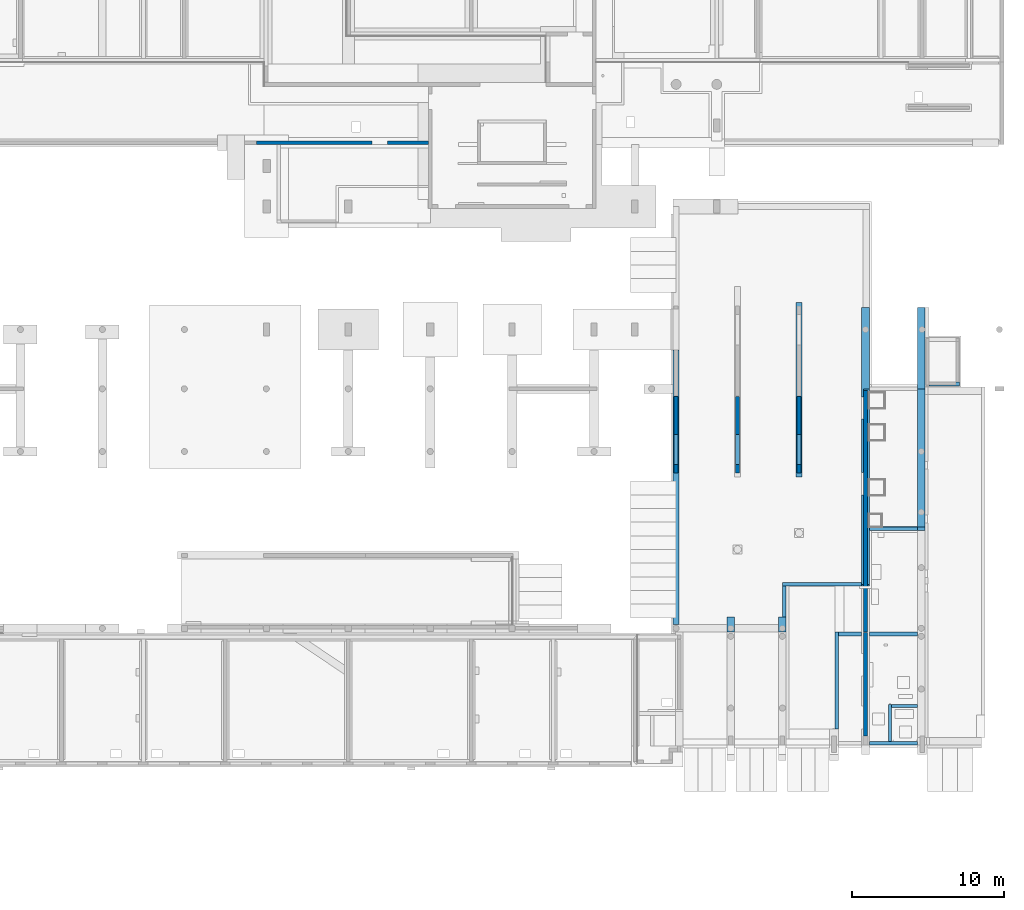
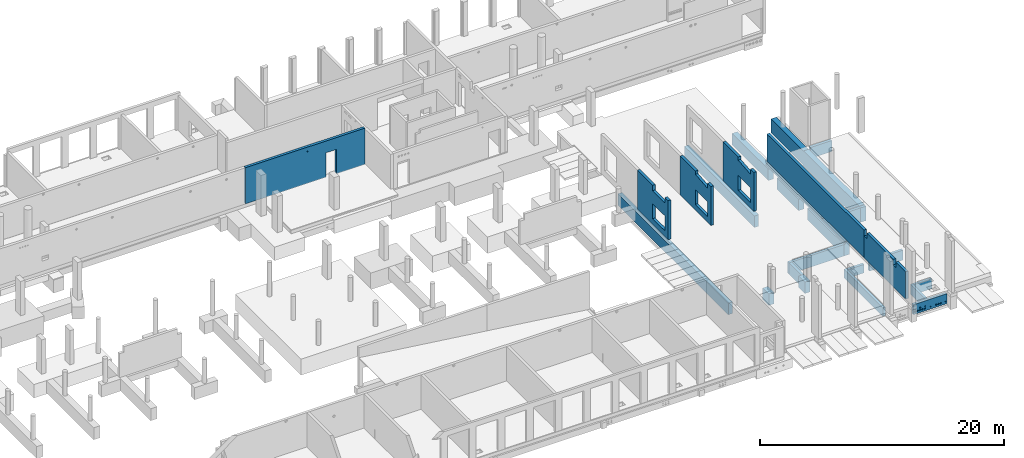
# One storey, part 45 of 60: 22 walls, 31 openings.
"""IFC2X3 building model written with IfcOpenShell, lengths in millimetres."""

from ifc_helpers import new_model, entity, si_unit, converted_unit, derived_unit, direction, frame, frame_2d, origin, origin_2d_with_axis, place, context, subcontext, project, spatial, polyline, rectangle, circle, outline, extrude, clip, bounded_halfspace, material, layer, layer_set, layer_usage, type_object, element, save


model = new_model("IFC2X3")

# Units and contexts
model_context = context("Model", 3, precision=0.01, world=origin(), true_north=direction((6.12303176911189e-17, 1.0)))
body_context = subcontext(model_context, "Body", "Model", "MODEL_VIEW")
ifc_project = project(units=[si_unit("LENGTHUNIT", "METRE", prefix="MILLI"), si_unit("AREAUNIT", "SQUARE_METRE"), si_unit("VOLUMEUNIT", "CUBIC_METRE"), converted_unit("PLANEANGLEUNIT", "DEGREE", entity("IfcRatioMeasure", 0.0174532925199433), si_unit("PLANEANGLEUNIT", "RADIAN"), dimensions=[0, 0, 0, 0, 0, 0, 0]), si_unit("MASSUNIT", "GRAM", prefix="KILO"), derived_unit("MASSDENSITYUNIT", [(si_unit("MASSUNIT", "GRAM", prefix="KILO"), 1), (si_unit("LENGTHUNIT", "METRE"), -3)]), si_unit("TIMEUNIT", "SECOND"), si_unit("FREQUENCYUNIT", "HERTZ"), si_unit("THERMODYNAMICTEMPERATUREUNIT", "DEGREE_CELSIUS"), derived_unit("THERMALTRANSMITTANCEUNIT", [(si_unit("MASSUNIT", "GRAM", prefix="KILO"), 1), (si_unit("THERMODYNAMICTEMPERATUREUNIT", "KELVIN"), -1), (si_unit("TIMEUNIT", "SECOND"), -3)]), derived_unit("VOLUMETRICFLOWRATEUNIT", [(si_unit("LENGTHUNIT", "METRE"), 3), (si_unit("TIMEUNIT", "SECOND"), -1)]), si_unit("ELECTRICCURRENTUNIT", "AMPERE"), si_unit("ELECTRICVOLTAGEUNIT", "VOLT"), si_unit("POWERUNIT", "WATT"), si_unit("FORCEUNIT", "NEWTON", prefix="KILO"), si_unit("ILLUMINANCEUNIT", "LUX"), si_unit("LUMINOUSFLUXUNIT", "LUMEN"), si_unit("LUMINOUSINTENSITYUNIT", "CANDELA"), derived_unit("USERDEFINED", [(si_unit("MASSUNIT", "GRAM", prefix="KILO"), -1), (si_unit("LENGTHUNIT", "METRE"), -2), (si_unit("TIMEUNIT", "SECOND"), 3), (si_unit("LUMINOUSFLUXUNIT", "LUMEN"), 1)]), derived_unit("LINEARVELOCITYUNIT", [(si_unit("LENGTHUNIT", "METRE"), 1), (si_unit("TIMEUNIT", "SECOND"), -1)]), si_unit("PRESSUREUNIT", "PASCAL"), derived_unit("USERDEFINED", [(si_unit("LENGTHUNIT", "METRE"), -2), (si_unit("MASSUNIT", "GRAM", prefix="KILO"), 1), (si_unit("TIMEUNIT", "SECOND"), -2)])], contexts=[model_context])

# Site, building, storey
site_placement = place(None, origin())
site = spatial("IfcSite", under=ifc_project, at=site_placement, Name="Default", CompositionType="ELEMENT")
building_placement = place(site_placement, origin())
building = spatial("IfcBuilding", under=site, at=building_placement, Name="niet gebruiken", CompositionType="ELEMENT")
storey_placement = place(building_placement, origin())
storey = spatial("IfcBuildingStorey", under=building, at=storey_placement, Name="00 begane grond", CompositionType="ELEMENT", Elevation=0.0)

# Wall, openings
ifc_material_1 = material(Name="NLRS_f2_beton ihwg")
ifc_layer_1 = layer(ifc_material_1, 250.0)
ifc_layer_set_1 = layer_set([ifc_layer_1], Name="Basic Wall:NLRS_22.21_WA_beton ihwg d=250_gen")
ifc_layer_usage_1 = layer_usage(ifc_layer_set_1, "AXIS2", "NEGATIVE", 125.0)
wall_type_1 = type_object("IfcWallType", Name="Basic Wall:NLRS_22.21_WA_beton ihwg d=250_gen", PredefinedType="STANDARD", material=ifc_layer_set_1)
wall_1_placement = place(storey_placement, frame((74970.0, 41186.0, -70.0)))
wall_1 = element("IfcWallStandardCase", 1, at=wall_1_placement, inside=storey, type_object=wall_type_1, material=ifc_layer_usage_1, Name="Basic Wall:NLRS_22.21_WA_beton ihwg d=250_gen", ObjectType="Basic Wall:NLRS_22.21_WA_beton ihwg d=250_gen", context=body_context, shape_type="Clipping", body=[
    clip(extrude(rectangle(XDim=11305.0000000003, YDim=249.999999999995, at=frame_2d((5652.50000000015, -5.04485342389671e-13), x_axis=(-1.0, 0.0))), origin(), (0.0, 0.0, 1.0), 3630.0), bounded_halfspace(frame((0.0, -125.0, 3630.0), z_axis=(0.0, 0.0, -1.0), x_axis=(-1.0, 0.0, 0.0)), True, frame((0.0, -125.0, 3630.0), z_axis=(0.0, 0.0, -1.0), x_axis=(-1.0, 0.0, 0.0)), polyline([(0.0, 0.0), (0.0, 230.0), (0.0, 250.0), (-11305.0, 250.0), (-11305.0, 0.0), (0.0, 0.0)]))),
])
opening_1_placement = place(wall_1_placement, origin())
element("IfcOpeningElement", 2, at=opening_1_placement, cuts=wall_1, Name="Basic Wall:NLRS_22.21_WA_beton ihwg d=250_gen", ObjectType="Opening", context=body_context, shape_type="SweptSolid", body=[
    extrude(rectangle(XDim=2450.0, YDim=1024.99999999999, at=origin_2d_with_axis()), frame((8107.50000000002, -1649.0, 1225.0), z_axis=(0.0, 1.0, 0.0), x_axis=(0.0, 0.0, 1.0)), (0.0, 0.0, 1.0), 3048.0),
])
opening_2_placement = place(wall_1_placement, origin())
element("IfcOpeningElement", 3, at=opening_2_placement, cuts=wall_1, Name="Basic Wall:NLRS_22.21_WA_beton ihwg d=250_gen", ObjectType="Opening", context=body_context, shape_type="SweptSolid", body=[
    extrude(circle(Radius=55.0, at=frame_2d((0.0, -5.41433564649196e-13), x_axis=(1.0, 0.0))), frame((5875.0, -125.0, 3190.0), z_axis=(0.0, 1.0, 0.0), x_axis=(1.0, 0.0, 0.0)), (0.0, 0.0, 1.0), 250.000000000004),
])

ifc_material_2 = material(Name="NLRS_f2_beton prefab")
ifc_layer_2 = layer(ifc_material_2, 250.0)
ifc_layer_set_2 = layer_set([ifc_layer_2], Name="Basic Wall:NLRS_21.21_WA_beton prefab d=250_gen")
ifc_layer_usage_2 = layer_usage(ifc_layer_set_2, "AXIS2", "NEGATIVE", 125.0)
wall_type_2 = type_object("IfcWallType", Name="Basic Wall:NLRS_21.21_WA_beton prefab d=250_gen", PredefinedType="STANDARD", material=ifc_layer_set_2)
wall_2_placement = place(storey_placement, frame((115075.0, 2100.0, 30.0), z_axis=(0.0, 0.0, 1.0), x_axis=(0.0, 1.0, 0.0)))
wall_2 = element("IfcWallStandardCase", 4, at=wall_2_placement, inside=storey, type_object=wall_type_2, material=ifc_layer_usage_2, Name="Basic Wall:NLRS_21.21_WA_beton prefab d=250_gen", ObjectType="Basic Wall:NLRS_21.21_WA_beton prefab d=250_gen", context=body_context, shape_type="SweptSolid", body=[
    extrude(rectangle(XDim=6826.00000000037, YDim=250.000000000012, at=frame_2d((3413.00000000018, -7.46069872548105e-13), x_axis=(-1.0, 0.0))), origin(), (0.0, 0.0, 1.0), 2740.00000000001),
])
opening_3_placement = place(wall_2_placement, origin())
element("IfcOpeningElement", 5, at=opening_3_placement, cuts=wall_2, Name="Basic Wall:NLRS_21.21_WA_beton prefab d=250_gen", ObjectType="Opening", context=body_context, shape_type="SweptSolid", body=[
    extrude(rectangle(XDim=549.999999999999, YDim=475.000000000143, at=frame_2d((1.76214598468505e-12, 0.0), x_axis=(1.0, 0.0))), frame((6588.5000000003, 125.0, 2465.0), z_axis=(0.0, -1.0, 0.0), x_axis=(0.0, 0.0, 1.0)), (0.0, 0.0, 1.0), 250.0),
])
opening_4_placement = place(wall_2_placement, origin())
element("IfcOpeningElement", 6, at=opening_4_placement, cuts=wall_2, Name="Basic Wall:NLRS_21.21_WA_beton prefab d=250_gen", ObjectType="Opening", context=body_context, shape_type="SweptSolid", body=[
    extrude(rectangle(XDim=550.000000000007, YDim=439.999999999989, at=frame_2d((-2.70006239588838e-13, -1.47792889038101e-12), x_axis=(0.0, 1.0))), frame((1840.0, 125.0, 2465.0), z_axis=(0.0, -1.0, 0.0), x_axis=(-1.0, 0.0, 0.0)), (0.0, 0.0, 1.0), 250.0),
])

# Wall
ifc_layer_usage_3 = layer_usage(ifc_layer_set_2, "AXIS2", "NEGATIVE", 125.0)
wall_3_placement = place(storey_placement, frame((115075.0, 8966.0, 30.0), z_axis=(0.0, 0.0, 1.0), x_axis=(0.0, 1.0, 0.0)))
element("IfcWallStandardCase", 7, at=wall_3_placement, inside=storey, type_object=wall_type_2, material=ifc_layer_usage_3, Name="Basic Wall:NLRS_21.21_WA_beton prefab d=250_gen", ObjectType="Basic Wall:NLRS_21.21_WA_beton prefab d=250_gen", context=body_context, shape_type="SweptSolid", body=[
    extrude(rectangle(XDim=15885.0, YDim=250.000000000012, at=frame_2d((7942.50000000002, 3.94351218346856e-12), x_axis=(-1.0, 0.0))), origin(), (0.0, 0.0, 1.0), 2740.00000000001),
])

# Wall, openings
ifc_layer_3 = layer(ifc_material_2, 250.0)
ifc_layer_set_3 = layer_set([ifc_layer_3], Name="Basic Wall:NLRS_22.21_WA_beton prefab d=250_gen")
ifc_layer_usage_4 = layer_usage(ifc_layer_set_3, "AXIS2", "NEGATIVE", 125.0)
wall_type_3 = type_object("IfcWallType", Name="Basic Wall:NLRS_22.21_WA_beton prefab d=250_gen", PredefinedType="STANDARD", material=ifc_layer_set_3)
wall_4_placement = place(storey_placement, frame((102600.0, 24471.0, -170.0), z_axis=(0.0, 0.0, 1.0), x_axis=(0.0, -1.0, 0.0)))
wall_4 = element("IfcWallStandardCase", 8, at=wall_4_placement, inside=storey, type_object=wall_type_3, material=ifc_layer_usage_4, Name="Basic Wall:NLRS_22.21_WA_beton prefab d=250_gen", ObjectType="Basic Wall:NLRS_22.21_WA_beton prefab d=250_gen", context=body_context, shape_type="SweptSolid", body=[
    extrude(rectangle(XDim=5045.00000000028, YDim=250.000000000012, at=frame_2d((2522.50000000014, 0.0), x_axis=(-1.0, 0.0))), origin(), (0.0, 0.0, 1.0), 3910.00000000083),
])
opening_5_placement = place(wall_4_placement, origin())
element("IfcOpeningElement", 9, at=opening_5_placement, cuts=wall_4, Name="Basic Wall:NLRS_22.21_WA_beton prefab d=250_gen", ObjectType="Opening", context=body_context, shape_type="SweptSolid", body=[
    extrude(rectangle(XDim=1500.0, YDim=2000.0, at=frame_2d((-2.1600499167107e-12, 0.0), x_axis=(0.0, 1.0))), frame((3495.0, -1399.0, 1320.0), z_axis=(0.0, 1.0, 0.0), x_axis=(-1.0, 0.0, 0.0)), (0.0, 0.0, 1.0), 3048.0),
])
opening_6_placement = place(wall_4_placement, origin())
element("IfcOpeningElement", 10, at=opening_6_placement, cuts=wall_4, Name="Basic Wall:NLRS_22.21_WA_beton prefab d=250_gen", ObjectType="Opening", context=body_context, shape_type="SweptSolid", body=[
    extrude(rectangle(XDim=539.999999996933, YDim=2000.0, at=frame_2d((0.0, -2.55795384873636e-13), x_axis=(0.0, 1.0))), frame((3495.0, 125.0, 3640.0), z_axis=(0.0, -1.0, 0.0), x_axis=(-1.0, 0.0, 0.0)), (0.0, 0.0, 1.0), 250.0),
])

ifc_layer_usage_5 = layer_usage(ifc_layer_set_3, "AXIS2", "NEGATIVE", 125.0)
wall_5_placement = place(storey_placement, frame((106650.0, 24471.0, -170.0), z_axis=(0.0, 0.0, 1.0), x_axis=(0.0, -1.0, 0.0)))
wall_5 = element("IfcWallStandardCase", 11, at=wall_5_placement, inside=storey, type_object=wall_type_3, material=ifc_layer_usage_5, Name="Basic Wall:NLRS_22.21_WA_beton prefab d=250_gen", ObjectType="Basic Wall:NLRS_22.21_WA_beton prefab d=250_gen", context=body_context, shape_type="SweptSolid", body=[
    extrude(rectangle(XDim=5045.0000000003, YDim=250.000000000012, at=frame_2d((2522.50000000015, 0.0), x_axis=(-1.0, 0.0))), origin(), (0.0, 0.0, 1.0), 3910.00000000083),
])
opening_7_placement = place(wall_5_placement, origin())
element("IfcOpeningElement", 12, at=opening_7_placement, cuts=wall_5, Name="Basic Wall:NLRS_22.21_WA_beton prefab d=250_gen", ObjectType="Opening", context=body_context, shape_type="SweptSolid", body=[
    extrude(rectangle(XDim=1500.0, YDim=2000.0, at=frame_2d((2.1600499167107e-12, 0.0), x_axis=(0.0, 1.0))), frame((3495.0, -1399.0, 1320.0), z_axis=(0.0, 1.0, 0.0), x_axis=(-1.0, 0.0, 0.0)), (0.0, 0.0, 1.0), 3048.0),
])
opening_8_placement = place(wall_5_placement, origin())
element("IfcOpeningElement", 13, at=opening_8_placement, cuts=wall_5, Name="Basic Wall:NLRS_22.21_WA_beton prefab d=250_gen", ObjectType="Opening", context=body_context, shape_type="SweptSolid", body=[
    extrude(outline(polyline([(-1000.0, -210.808960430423), (1000.0, -210.808960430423), (1000.0, 116.263505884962), (-1000.0, 305.354414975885), (-1000.0, -210.808960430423)])), frame((3495.0, 125.0, 3699.1910395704), z_axis=(0.0, -1.0, 0.0), x_axis=(-1.0, 0.0, 0.0)), (0.0, 0.0, 1.0), 250.0),
])

ifc_layer_usage_6 = layer_usage(ifc_layer_set_3, "AXIS2", "NEGATIVE", 125.0)
wall_6_placement = place(storey_placement, frame((110700.0, 24471.0, -170.0), z_axis=(0.0, 0.0, 1.0), x_axis=(0.0, -1.0, 0.0)))
wall_6 = element("IfcWallStandardCase", 14, at=wall_6_placement, inside=storey, type_object=wall_type_3, material=ifc_layer_usage_6, Name="Basic Wall:NLRS_22.21_WA_beton prefab d=250_gen", ObjectType="Basic Wall:NLRS_22.21_WA_beton prefab d=250_gen", context=body_context, shape_type="SweptSolid", body=[
    extrude(rectangle(XDim=5045.00000000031, YDim=250.000000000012, at=frame_2d((2522.50000000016, 0.0), x_axis=(-1.0, 0.0))), origin(), (0.0, 0.0, 1.0), 3910.00000000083),
])
opening_9_placement = place(wall_6_placement, origin())
element("IfcOpeningElement", 15, at=opening_9_placement, cuts=wall_6, Name="Basic Wall:NLRS_22.21_WA_beton prefab d=250_gen", ObjectType="Opening", context=body_context, shape_type="SweptSolid", body=[
    extrude(rectangle(XDim=1500.0, YDim=2000.0, at=frame_2d((-2.1600499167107e-12, 0.0), x_axis=(0.0, 1.0))), frame((3495.0, -1399.0, 1320.0), z_axis=(0.0, 1.0, 0.0), x_axis=(-1.0, 0.0, 0.0)), (0.0, 0.0, 1.0), 3048.0),
])
opening_10_placement = place(wall_6_placement, origin())
element("IfcOpeningElement", 16, at=opening_10_placement, cuts=wall_6, Name="Basic Wall:NLRS_22.21_WA_beton prefab d=250_gen", ObjectType="Opening", context=body_context, shape_type="SweptSolid", body=[
    extrude(outline(polyline([(-1000.0, -210.80896043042), (1000.0, -210.80896043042), (1000.0, 116.263505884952), (-1000.0, 305.354414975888), (-1000.0, -210.80896043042)])), frame((3495.0, 125.0, 3699.19103957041), z_axis=(0.0, -1.0, 0.0), x_axis=(-1.0, 0.0, 0.0)), (0.0, 0.0, 1.0), 250.0),
])

ifc_layer_4 = layer(ifc_material_1, 250.0)
ifc_layer_set_4 = layer_set([ifc_layer_4], Name="Basic Wall:NLRS_16.21_WA_beton ihwg d=250_gen")
ifc_layer_usage_7 = layer_usage(ifc_layer_set_4, "AXIS2", "NEGATIVE", 125.0)
wall_type_4 = type_object("IfcWallType", Name="Basic Wall:NLRS_16.21_WA_beton ihwg d=250_gen", PredefinedType="STANDARD", material=ifc_layer_set_4)
wall_7_placement = place(storey_placement, frame((115325.0, 1625.0, -1300.0)))
wall_7 = element("IfcWallStandardCase", 17, at=wall_7_placement, inside=storey, type_object=wall_type_4, material=ifc_layer_usage_7, Name="Basic Wall:NLRS_16.21_WA_beton ihwg d=250_gen", ObjectType="Basic Wall:NLRS_16.21_WA_beton ihwg d=250_gen", context=body_context, shape_type="SweptSolid", body=[
    extrude(rectangle(XDim=3175.00000000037, YDim=250.0, at=frame_2d((1587.50000000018, 0.0), x_axis=(-1.0, 0.0))), origin(), (0.0, 0.0, 1.0), 1000.0),
])
opening_11_placement = place(wall_7_placement, origin())
element("IfcOpeningElement", 18, at=opening_11_placement, cuts=wall_7, Name="Basic Wall:NLRS_16.21_WA_beton ihwg d=250_gen", ObjectType="Opening", context=body_context, shape_type="SweptSolid", body=[
    extrude(circle(Radius=75.0, at=frame_2d((0.0, -1.35358391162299e-13), x_axis=(1.0, 0.0))), frame((2610.0, -125.0, 250.0), z_axis=(0.0, 1.0, 0.0), x_axis=(-1.0, 0.0, 0.0)), (0.0, 0.0, 1.0), 250.0),
])
opening_12_placement = place(wall_7_placement, origin())
element("IfcOpeningElement", 19, at=opening_12_placement, cuts=wall_7, Name="Basic Wall:NLRS_16.21_WA_beton ihwg d=250_gen", ObjectType="Opening", context=body_context, shape_type="SweptSolid", body=[
    extrude(circle(Radius=75.0, at=frame_2d((0.0, -1.35358391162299e-13), x_axis=(1.0, 0.0))), frame((635.999994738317, -125.0, 250.0), z_axis=(0.0, 1.0, 0.0), x_axis=(-1.0, 0.0, 0.0)), (0.0, 0.0, 1.0), 250.0),
])
opening_13_placement = place(wall_7_placement, origin())
element("IfcOpeningElement", 20, at=opening_13_placement, cuts=wall_7, Name="Basic Wall:NLRS_16.21_WA_beton ihwg d=250_gen", ObjectType="Opening", context=body_context, shape_type="SweptSolid", body=[
    extrude(circle(Radius=75.0, at=frame_2d((0.0, -1.35358391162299e-13), x_axis=(1.0, 0.0))), frame((635.999994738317, -125.0, 480.0), z_axis=(0.0, 1.0, 0.0), x_axis=(-1.0, 0.0, 0.0)), (0.0, 0.0, 1.0), 250.0),
])
opening_14_placement = place(wall_7_placement, origin())
element("IfcOpeningElement", 21, at=opening_14_placement, cuts=wall_7, Name="Basic Wall:NLRS_16.21_WA_beton ihwg d=250_gen", ObjectType="Opening", context=body_context, shape_type="SweptSolid", body=[
    extrude(circle(Radius=75.0, at=frame_2d((0.0, -1.35358391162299e-13), x_axis=(1.0, 0.0))), frame((1095.07740603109, -125.0, 250.0), z_axis=(0.0, 1.0, 0.0), x_axis=(-1.0, 0.0, 0.0)), (0.0, 0.0, 1.0), 250.0),
])
opening_15_placement = place(wall_7_placement, origin())
element("IfcOpeningElement", 22, at=opening_15_placement, cuts=wall_7, Name="Basic Wall:NLRS_16.21_WA_beton ihwg d=250_gen", ObjectType="Opening", context=body_context, shape_type="SweptSolid", body=[
    extrude(circle(Radius=75.0, at=frame_2d((0.0, -1.35358391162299e-13), x_axis=(1.0, 0.0))), frame((865.538700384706, -125.0, 250.0), z_axis=(0.0, 1.0, 0.0), x_axis=(-1.0, 0.0, 0.0)), (0.0, 0.0, 1.0), 250.0),
])
opening_16_placement = place(wall_7_placement, origin())
element("IfcOpeningElement", 23, at=opening_16_placement, cuts=wall_7, Name="Basic Wall:NLRS_16.21_WA_beton ihwg d=250_gen", ObjectType="Opening", context=body_context, shape_type="SweptSolid", body=[
    extrude(circle(Radius=75.0, at=frame_2d((0.0, -1.35358391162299e-13), x_axis=(1.0, 0.0))), frame((406.461289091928, -125.0, 250.0), z_axis=(0.0, 1.0, 0.0), x_axis=(-1.0, 0.0, 0.0)), (0.0, 0.0, 1.0), 250.0),
])
opening_17_placement = place(wall_7_placement, origin())
element("IfcOpeningElement", 24, at=opening_17_placement, cuts=wall_7, Name="Basic Wall:NLRS_16.21_WA_beton ihwg d=250_gen", ObjectType="Opening", context=body_context, shape_type="SweptSolid", body=[
    extrude(circle(Radius=75.0, at=frame_2d((0.0, -1.35358391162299e-13), x_axis=(1.0, 0.0))), frame((176.922583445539, -125.0, 250.0), z_axis=(0.0, 1.0, 0.0), x_axis=(-1.0, 0.0, 0.0)), (0.0, 0.0, 1.0), 250.0),
])
opening_18_placement = place(wall_7_placement, origin())
element("IfcOpeningElement", 25, at=opening_18_placement, cuts=wall_7, Name="Basic Wall:NLRS_16.21_WA_beton ihwg d=250_gen", ObjectType="Opening", context=body_context, shape_type="SweptSolid", body=[
    extrude(circle(Radius=75.0, at=frame_2d((0.0, -1.35358391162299e-13), x_axis=(1.0, 0.0))), frame((2150.0, -125.0, 250.0), z_axis=(0.0, 1.0, 0.0), x_axis=(-1.0, 0.0, 0.0)), (0.0, 0.0, 1.0), 250.0),
])
opening_19_placement = place(wall_7_placement, origin())
element("IfcOpeningElement", 26, at=opening_19_placement, cuts=wall_7, Name="Basic Wall:NLRS_16.21_WA_beton ihwg d=250_gen", ObjectType="Opening", context=body_context, shape_type="SweptSolid", body=[
    extrude(circle(Radius=75.0, at=frame_2d((0.0, -1.35358391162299e-13), x_axis=(1.0, 0.0))), frame((2380.0, -125.0, 250.0), z_axis=(0.0, 1.0, 0.0), x_axis=(-1.0, 0.0, 0.0)), (0.0, 0.0, 1.0), 250.0),
])
opening_20_placement = place(wall_7_placement, origin())
element("IfcOpeningElement", 27, at=opening_20_placement, cuts=wall_7, Name="Basic Wall:NLRS_16.21_WA_beton ihwg d=250_gen", ObjectType="Opening", context=body_context, shape_type="SweptSolid", body=[
    extrude(circle(Radius=50.0, at=origin_2d_with_axis()), frame((3025.0, -125.0, 250.0), z_axis=(0.0, 1.0, 0.0), x_axis=(-1.0, 0.0, 0.0)), (0.0, 0.0, 1.0), 250.0),
])
opening_21_placement = place(wall_7_placement, origin())
element("IfcOpeningElement", 28, at=opening_21_placement, cuts=wall_7, Name="Basic Wall:NLRS_16.21_WA_beton ihwg d=250_gen", ObjectType="Opening", context=body_context, shape_type="SweptSolid", body=[
    extrude(circle(Radius=50.0, at=origin_2d_with_axis()), frame((1621.99998947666, -125.0, 250.0), z_axis=(0.0, 1.0, 0.0), x_axis=(-1.0, 0.0, 0.0)), (0.0, 0.0, 1.0), 250.0),
])
opening_22_placement = place(wall_7_placement, origin())
element("IfcOpeningElement", 29, at=opening_22_placement, cuts=wall_7, Name="Basic Wall:NLRS_16.21_WA_beton ihwg d=250_gen", ObjectType="Opening", context=body_context, shape_type="SweptSolid", body=[
    extrude(circle(Radius=50.0, at=frame_2d((0.0, -1.35358391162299e-13), x_axis=(1.0, 0.0))), frame((1095.07740603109, -125.0, 480.0), z_axis=(0.0, 1.0, 0.0), x_axis=(-1.0, 0.0, 0.0)), (0.0, 0.0, 1.0), 250.0),
])
opening_23_placement = place(wall_7_placement, origin())
element("IfcOpeningElement", 30, at=opening_23_placement, cuts=wall_7, Name="Basic Wall:NLRS_16.21_WA_beton ihwg d=250_gen", ObjectType="Opening", context=body_context, shape_type="SweptSolid", body=[
    extrude(circle(Radius=50.0, at=frame_2d((0.0, -1.35358391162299e-13), x_axis=(1.0, 0.0))), frame((176.922583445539, -125.0, 480.0), z_axis=(0.0, 1.0, 0.0), x_axis=(-1.0, 0.0, 0.0)), (0.0, 0.0, 1.0), 250.0),
])

# Walls
ifc_layer_usage_8 = layer_usage(ifc_layer_set_4, "AXIS2", "NEGATIVE", 125.0)
wall_8_placement = place(storey_placement, frame((109725.000370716, 9946.0, -1600.0), z_axis=(0.0, 0.0, 1.0), x_axis=(0.0, 1.0, 0.0)))
element("IfcWallStandardCase", 31, at=wall_8_placement, inside=storey, type_object=wall_type_4, material=ifc_layer_usage_8, Name="Basic Wall:NLRS_16.21_WA_beton ihwg d=250_gen", ObjectType="Basic Wall:NLRS_16.21_WA_beton ihwg d=250_gen", context=body_context, shape_type="SweptSolid", body=[
    extrude(rectangle(XDim=2025.0000000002, YDim=250.000000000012, at=frame_2d((1012.5000000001, 0.0), x_axis=(-1.0, 0.0))), origin(), (0.0, 0.0, 1.0), 1150.0),
])
ifc_layer_usage_9 = layer_usage(ifc_layer_set_4, "AXIS2", "NEGATIVE", 125.0)
wall_9_placement = place(storey_placement, frame((109600.000370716, 12096.0, -1600.0)))
element("IfcWallStandardCase", 32, at=wall_9_placement, inside=storey, type_object=wall_type_4, material=ifc_layer_usage_9, Name="Basic Wall:NLRS_16.21_WA_beton ihwg d=250_gen", ObjectType="Basic Wall:NLRS_16.21_WA_beton ihwg d=250_gen", context=body_context, shape_type="SweptSolid", body=[
    extrude(rectangle(XDim=5224.99962928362, YDim=249.999999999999, at=frame_2d((2612.49981464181, 0.0), x_axis=(-1.0, 0.0))), origin(), (0.0, 0.0, 1.0), 1150.0),
])

# Wall, openings
ifc_layer_usage_10 = layer_usage(ifc_layer_set_4, "AXIS2", "NEGATIVE", 125.0)
wall_10_placement = place(storey_placement, frame((115325.0, 15771.0, -1750.0)))
wall_10 = element("IfcWallStandardCase", 33, at=wall_10_placement, inside=storey, type_object=wall_type_4, material=ifc_layer_usage_10, Name="Basic Wall:NLRS_16.21_WA_beton ihwg d=250_gen", ObjectType="Basic Wall:NLRS_16.21_WA_beton ihwg d=250_gen", context=body_context, shape_type="Clipping", body=[
    clip(clip(extrude(rectangle(XDim=3175.0000000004, YDim=249.999999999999, at=frame_2d((1587.5000000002, 0.0), x_axis=(-1.0, 0.0))), origin(), (0.0, 0.0, 1.0), 1500.0), bounded_halfspace(frame((3175.0, 105.0, 1450.0), z_axis=(0.0, 0.0, -1.0), x_axis=(0.0, -1.0, 0.0)), True, frame((3175.0, 105.0, 1450.0), z_axis=(0.0, 0.0, -1.0), x_axis=(0.0, -1.0, 0.0)), polyline([(0.0, 0.0), (230.0, 0.0), (230.0, 3175.0), (0.0, 3175.0), (0.0, 0.0)]))), bounded_halfspace(frame((0.0, 105.0, 1450.0), z_axis=(0.0, 1.0, 0.0), x_axis=(0.0, 0.0, 1.0)), True, frame((0.0, 105.0, 1450.0), z_axis=(0.0, 1.0, 0.0), x_axis=(0.0, 0.0, 1.0)), polyline([(0.0, 0.0), (50.0, 0.0), (50.0, 3175.0), (0.0, 3175.0), (0.0, 0.0)]))),
])
opening_24_placement = place(wall_10_placement, origin())
element("IfcOpeningElement", 34, at=opening_24_placement, cuts=wall_10, Name="Basic Wall:NLRS_16.21_WA_beton ihwg d=250_gen", ObjectType="Opening", context=body_context, shape_type="SweptSolid", body=[
    extrude(circle(Radius=80.0, at=frame_2d((0.0, -3.38395977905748e-13), x_axis=(1.0, 0.0))), frame((1200.0, -125.0, 1210.0), z_axis=(0.0, 1.0, 0.0), x_axis=(1.0, 0.0, 0.0)), (0.0, 0.0, 1.0), 249.999999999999),
])
opening_25_placement = place(wall_10_placement, origin())
element("IfcOpeningElement", 35, at=opening_25_placement, cuts=wall_10, Name="Basic Wall:NLRS_16.21_WA_beton ihwg d=250_gen", ObjectType="Opening", context=body_context, shape_type="SweptSolid", body=[
    extrude(circle(Radius=80.0, at=frame_2d((0.0, -3.38395977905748e-13), x_axis=(1.0, 0.0))), frame((2000.0, -125.0, 1210.0), z_axis=(0.0, 1.0, 0.0), x_axis=(1.0, 0.0, 0.0)), (0.0, 0.0, 1.0), 249.999999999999),
])

# Walls
ifc_layer_usage_11 = layer_usage(ifc_layer_set_4, "AXIS2", "NEGATIVE", 125.0)
wall_11_placement = place(storey_placement, frame((113175.000370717, 2550.0, -1300.0), z_axis=(0.0, 0.0, 1.0), x_axis=(0.0, 1.0, 0.0)))
element("IfcWallStandardCase", 36, at=wall_11_placement, inside=storey, type_object=wall_type_4, material=ifc_layer_usage_11, Name="Basic Wall:NLRS_16.21_WA_beton ihwg d=250_gen", ObjectType="Basic Wall:NLRS_16.21_WA_beton ihwg d=250_gen", context=body_context, shape_type="SweptSolid", body=[
    extrude(rectangle(XDim=6396.00000000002, YDim=250.000000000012, at=frame_2d((3198.00000000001, 0.0), x_axis=(-1.0, 0.0))), origin(), (0.0, 0.0, 1.0), 850.0),
])
ifc_layer_usage_12 = layer_usage(ifc_layer_set_4, "AXIS2", "NEGATIVE", 125.0)
wall_12_placement = place(storey_placement, frame((115325.0, 8821.0, -1300.0)))
element("IfcWallStandardCase", 37, at=wall_12_placement, inside=storey, type_object=wall_type_4, material=ifc_layer_usage_12, Name="Basic Wall:NLRS_16.21_WA_beton ihwg d=250_gen", ObjectType="Basic Wall:NLRS_16.21_WA_beton ihwg d=250_gen", context=body_context, shape_type="SweptSolid", body=[
    extrude(rectangle(XDim=3175.00000000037, YDim=249.999999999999, at=frame_2d((1587.50000000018, 0.0), x_axis=(-1.0, 0.0))), origin(), (0.0, 0.0, 1.0), 1000.0),
])
ifc_layer_usage_13 = layer_usage(ifc_layer_set_4, "AXIS2", "NEGATIVE", 125.0)
wall_13_placement = place(storey_placement, frame((113300.000370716, 8821.0, -1300.0)))
element("IfcWallStandardCase", 38, at=wall_13_placement, inside=storey, type_object=wall_type_4, material=ifc_layer_usage_13, Name="Basic Wall:NLRS_16.21_WA_beton ihwg d=250_gen", ObjectType="Basic Wall:NLRS_16.21_WA_beton ihwg d=250_gen", context=body_context, shape_type="SweptSolid", body=[
    extrude(rectangle(XDim=1524.99962928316, YDim=249.999999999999, at=frame_2d((762.499814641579, 0.0), x_axis=(-1.0, 0.0))), origin(), (0.0, 0.0, 1.0), 850.0),
])
ifc_layer_usage_14 = layer_usage(ifc_layer_set_4, "AXIS2", "NEGATIVE", 125.0)
wall_14_placement = place(storey_placement, frame((121275.0, 25301.0, -1400.0), z_axis=(0.0, 0.0, 1.0), x_axis=(-1.0, 0.0, 0.0)))
element("IfcWallStandardCase", 39, at=wall_14_placement, inside=storey, type_object=wall_type_4, material=ifc_layer_usage_14, Name="Basic Wall:NLRS_16.21_WA_beton ihwg d=250_gen", ObjectType="Basic Wall:NLRS_16.21_WA_beton ihwg d=250_gen", context=body_context, shape_type="SweptSolid", body=[
    extrude(rectangle(XDim=2000.0, YDim=250.000000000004, at=frame_2d((999.999999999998, -2.98427949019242e-13), x_axis=(-1.0, 0.0))), origin(), (0.0, 0.0, 1.0), 1100.0),
])
ifc_layer_5 = layer(ifc_material_1, 400.0)
ifc_layer_set_5 = layer_set([ifc_layer_5], Name="Basic Wall:NLRS_16.21_WA_beton ihwg d=400_gen")
ifc_layer_usage_15 = layer_usage(ifc_layer_set_5, "AXIS2", "NEGATIVE", 200.0)
wall_type_5 = type_object("IfcWallType", Name="Basic Wall:NLRS_16.21_WA_beton ihwg d=400_gen", PredefinedType="STANDARD", material=ifc_layer_set_5)
wall_15_placement = place(storey_placement, frame((110700.0, 30676.0, -1600.0), z_axis=(0.0, 0.0, 1.0), x_axis=(0.0, -1.0, 0.0)))
element("IfcWallStandardCase", 40, at=wall_15_placement, inside=storey, type_object=wall_type_5, material=ifc_layer_usage_15, Name="Basic Wall:NLRS_16.21_WA_beton ihwg d=400_gen", ObjectType="Basic Wall:NLRS_16.21_WA_beton ihwg d=400_gen", context=body_context, shape_type="SweptSolid", body=[
    extrude(rectangle(XDim=11500.0, YDim=400.000000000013, at=frame_2d((5750.0, 0.0), x_axis=(-1.0, 0.0))), origin(), (0.0, 0.0, 1.0), 1150.0),
])
ifc_layer_usage_16 = layer_usage(ifc_layer_set_5, "AXIS2", "NEGATIVE", 200.0)
wall_16_placement = place(storey_placement, frame((102600.0, 27531.0, -1600.0), z_axis=(0.0, 0.0, 1.0), x_axis=(0.0, -1.0, 0.0)))
element("IfcWallStandardCase", 41, at=wall_16_placement, inside=storey, type_object=wall_type_5, material=ifc_layer_usage_16, Name="Basic Wall:NLRS_16.21_WA_beton ihwg d=400_gen", ObjectType="Basic Wall:NLRS_16.21_WA_beton ihwg d=400_gen", context=body_context, shape_type="SweptSolid", body=[
    extrude(rectangle(XDim=18084.9999999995, YDim=400.000000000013, at=frame_2d((9042.49999999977, 0.0), x_axis=(-1.0, 0.0))), origin(), (0.0, 0.0, 1.0), 1150.0),
])

# Wall, openings
ifc_layer_6 = layer(ifc_material_1, 500.0)
ifc_layer_set_6 = layer_set([ifc_layer_6], Name="Basic Wall:NLRS_16.21_WA_beton ihwg d=500_gen")
ifc_layer_usage_17 = layer_usage(ifc_layer_set_6, "AXIS2", "NEGATIVE", 250.0)
wall_type_6 = type_object("IfcWallType", Name="Basic Wall:NLRS_16.21_WA_beton ihwg d=500_gen", PredefinedType="STANDARD", material=ifc_layer_set_6)
wall_17_placement = place(storey_placement, frame((115075.0, 30336.0, -1600.0), z_axis=(0.0, 0.0, 1.0), x_axis=(0.0, -1.0, 0.0)))
wall_17 = element("IfcWallStandardCase", 42, at=wall_17_placement, inside=storey, type_object=wall_type_6, material=ifc_layer_usage_17, Name="Basic Wall:NLRS_16.21_WA_beton ihwg d=500_gen", ObjectType="Basic Wall:NLRS_16.21_WA_beton ihwg d=500_gen", context=body_context, shape_type="Clipping", body=[
    clip(extrude(rectangle(XDim=18364.9999999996, YDim=499.99999999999, at=frame_2d((9182.49999999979, 0.0), x_axis=(-1.0, 0.0))), origin(), (0.0, 0.0, 1.0), 1350.0), bounded_halfspace(frame((18365.0, -125.0, 1300.0), z_axis=(0.0, 1.0, 0.0), x_axis=(0.0, 0.0, 1.0)), True, frame((18365.0, -125.0, 1300.0), z_axis=(0.0, 1.0, 0.0), x_axis=(0.0, 0.0, 1.0)), polyline([(0.0, 0.0), (-150.0, 0.0), (-150.0, -6025.0), (-150.0, -7475.0), (-150.0, -11005.0), (-150.0, -12455.0), (-150.0, -13130.0), (50.0, -13130.0), (50.0, -3905.0), (0.0, -3905.0), (0.0, 0.0)]))),
])
opening_26_placement = place(wall_17_placement, origin())
element("IfcOpeningElement", 43, at=opening_26_placement, cuts=wall_17, Name="Basic Wall:NLRS_16.21_WA_beton ihwg d=500_gen", ObjectType="Opening", context=body_context, shape_type="SweptSolid", body=[
    extrude(rectangle(XDim=1150.0, YDim=1450.0, at=origin_2d_with_axis()), frame((6635.0, -250.0, 575.0), z_axis=(0.0, 1.0, 0.0), x_axis=(0.0, 0.0, -1.0)), (0.0, 0.0, 1.0), 499.99999999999),
])
opening_27_placement = place(wall_17_placement, origin())
element("IfcOpeningElement", 44, at=opening_27_placement, cuts=wall_17, Name="Basic Wall:NLRS_16.21_WA_beton ihwg d=500_gen", ObjectType="Opening", context=body_context, shape_type="SweptSolid", body=[
    extrude(rectangle(XDim=1150.0, YDim=1450.0, at=origin_2d_with_axis()), frame((11615.0, -250.0, 575.0), z_axis=(0.0, 1.0, 0.0), x_axis=(0.0, 0.0, -1.0)), (0.0, 0.0, 1.0), 499.99999999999),
])
opening_28_placement = place(wall_17_placement, origin())
element("IfcOpeningElement", 45, at=opening_28_placement, cuts=wall_17, Name="Basic Wall:NLRS_16.21_WA_beton ihwg d=500_gen", ObjectType="Opening", context=body_context, shape_type="SweptSolid", body=[
    extrude(rectangle(XDim=50.0, YDim=3779.99999999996, at=origin_2d_with_axis()), frame((16350.0, 250.0, 1325.0), z_axis=(0.0, -1.0, 0.0), x_axis=(0.0, 0.0, 1.0)), (0.0, 0.0, 1.0), 500.0),
])
opening_29_placement = place(wall_17_placement, origin())
element("IfcOpeningElement", 46, at=opening_29_placement, cuts=wall_17, Name="Basic Wall:NLRS_16.21_WA_beton ihwg d=500_gen", ObjectType="Opening", context=body_context, shape_type="SweptSolid", body=[
    extrude(rectangle(XDim=200.0, YDim=5359.9999999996, at=frame_2d((0.0, 0.0), x_axis=(0.0, 1.0))), frame((2680.0, 250.0, 1250.0), z_axis=(0.0, -1.0, 0.0), x_axis=(-1.0, 0.0, 0.0)), (0.0, 0.0, 1.0), 500.0),
])

ifc_layer_usage_18 = layer_usage(ifc_layer_set_6, "AXIS2", "NEGATIVE", 250.0)
wall_18_placement = place(storey_placement, frame((118750.0, 30336.0, -1750.0), z_axis=(0.0, 0.0, 1.0), x_axis=(0.0, -1.0, 0.0)))
wall_18 = element("IfcWallStandardCase", 47, at=wall_18_placement, inside=storey, type_object=wall_type_6, material=ifc_layer_usage_18, Name="Basic Wall:NLRS_16.21_WA_beton ihwg d=500_gen", ObjectType="Basic Wall:NLRS_16.21_WA_beton ihwg d=500_gen", context=body_context, shape_type="Clipping", body=[
    clip(clip(extrude(rectangle(XDim=14689.9999999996, YDim=499.99999999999, at=frame_2d((7344.99999999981, 0.0), x_axis=(-1.0, 0.0))), origin(), (0.0, 0.0, 1.0), 1500.0), bounded_halfspace(frame((14460.0, 250.0, 1450.0), z_axis=(0.0, 0.0, -1.0), x_axis=(1.0, 0.0, 0.0)), True, frame((14460.0, 250.0, 1450.0), z_axis=(0.0, 0.0, -1.0), x_axis=(1.0, 0.0, 0.0)), polyline([(0.0, 0.0), (230.0, 0.0), (230.0, 500.0), (0.0, 500.0), (0.0, 0.0)]))), bounded_halfspace(frame((14460.0, -250.0, 1450.0), z_axis=(-1.0, 0.0, 0.0), x_axis=(0.0, 0.0, 1.0)), True, frame((14460.0, -250.0, 1450.0), z_axis=(-1.0, 0.0, 0.0), x_axis=(0.0, 0.0, 1.0)), polyline([(0.0, 0.0), (50.0, 0.0), (50.0, 20.0), (50.0, 500.0), (0.0, 500.0), (0.0, 0.0)]))),
])
opening_30_placement = place(wall_18_placement, origin())
element("IfcOpeningElement", 48, at=opening_30_placement, cuts=wall_18, Name="Basic Wall:NLRS_16.21_WA_beton ihwg d=500_gen", ObjectType="Opening", context=body_context, shape_type="SweptSolid", body=[
    extrude(rectangle(XDim=49.9999999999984, YDim=5234.9999999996, at=frame_2d((0.0, 2.27373675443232e-12), x_axis=(1.0, 0.0))), frame((2617.4999999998, 250.0, 25.0), z_axis=(0.0, 1.0, 0.0), x_axis=(0.0, 0.0, 1.0)), (0.0, 0.0, -1.0), 500.0),
])
opening_31_placement = place(wall_18_placement, origin())
element("IfcOpeningElement", 49, at=opening_31_placement, cuts=wall_18, Name="Basic Wall:NLRS_16.21_WA_beton ihwg d=500_gen", ObjectType="Opening", context=body_context, shape_type="SweptSolid", body=[
    extrude(rectangle(XDim=50.0, YDim=5359.99999999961, at=frame_2d((2.27373675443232e-12, 0.0), x_axis=(0.0, -1.0))), frame((2680.0, 250.0, 1475.0), z_axis=(0.0, 1.0, 0.0), x_axis=(1.0, 0.0, 0.0)), (0.0, 0.0, -1.0), 500.0),
])

# Walls
ifc_layer_usage_19 = layer_usage(ifc_layer_set_6, "AXIS2", "NEGATIVE", 250.0)
wall_19_placement = place(storey_placement, frame((109600.000370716, 8946.0, -1600.0), z_axis=(0.0, 0.0, 1.0), x_axis=(0.0, 1.0, 0.0)))
element("IfcWallStandardCase", 50, at=wall_19_placement, inside=storey, type_object=wall_type_6, material=ifc_layer_usage_19, Name="Basic Wall:NLRS_16.21_WA_beton ihwg d=500_gen", ObjectType="Basic Wall:NLRS_16.21_WA_beton ihwg d=500_gen", context=body_context, shape_type="SweptSolid", body=[
    extrude(rectangle(XDim=999.999999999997, YDim=499.99999999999, at=frame_2d((499.999999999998, 8.81072992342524e-13), x_axis=(-1.0, 0.0))), origin(), (0.0, 0.0, 1.0), 1150.0),
])
ifc_layer_usage_20 = layer_usage(ifc_layer_set_6, "AXIS2", "NEGATIVE", 250.0)
wall_20_placement = place(storey_placement, frame((106200.000370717, 8946.0, -1600.0), z_axis=(0.0, 0.0, 1.0), x_axis=(0.0, 1.0, 0.0)))
element("IfcWallStandardCase", 51, at=wall_20_placement, inside=storey, type_object=wall_type_6, material=ifc_layer_usage_20, Name="Basic Wall:NLRS_16.21_WA_beton ihwg d=500_gen", ObjectType="Basic Wall:NLRS_16.21_WA_beton ihwg d=500_gen", context=body_context, shape_type="SweptSolid", body=[
    extrude(rectangle(XDim=999.999999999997, YDim=499.99999999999, at=frame_2d((499.999999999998, 8.81072992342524e-13), x_axis=(-1.0, 0.0))), origin(), (0.0, 0.0, 1.0), 1150.0),
])
ifc_layer_7 = layer(ifc_material_1, 200.0)
ifc_layer_set_7 = layer_set([ifc_layer_7], Name="Basic Wall:NLRS_16.21_WA_beton ihwg d=200_gen")
ifc_layer_usage_21 = layer_usage(ifc_layer_set_7, "AXIS2", "NEGATIVE", 100.0)
wall_type_7 = type_object("IfcWallType", Name="Basic Wall:NLRS_16.21_WA_beton ihwg d=200_gen", PredefinedType="STANDARD", material=ifc_layer_set_7)
wall_21_placement = place(storey_placement, frame((118500.0, 4078.0, -1300.0), z_axis=(0.0, 0.0, 1.0), x_axis=(-1.0, 0.0, 0.0)))
element("IfcWallStandardCase", 52, at=wall_21_placement, inside=storey, type_object=wall_type_7, material=ifc_layer_usage_21, Name="Basic Wall:NLRS_16.21_WA_beton ihwg d=200_gen", ObjectType="Basic Wall:NLRS_16.21_WA_beton ihwg d=200_gen", context=body_context, shape_type="SweptSolid", body=[
    extrude(rectangle(XDim=1703.00001052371, YDim=200.0, at=frame_2d((851.500005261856, 1.63424829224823e-13), x_axis=(-1.0, 0.0))), origin(), (0.0, 0.0, 1.0), 1000.0),
])
ifc_layer_usage_22 = layer_usage(ifc_layer_set_7, "AXIS2", "NEGATIVE", 100.0)
wall_22_placement = place(storey_placement, frame((116697.0, 1750.0, -1300.0), z_axis=(0.0, 0.0, 1.0), x_axis=(0.0, 1.0, 0.0)))
element("IfcWallStandardCase", 53, at=wall_22_placement, inside=storey, type_object=wall_type_7, material=ifc_layer_usage_22, Name="Basic Wall:NLRS_16.21_WA_beton ihwg d=200_gen", ObjectType="Basic Wall:NLRS_16.21_WA_beton ihwg d=200_gen", context=body_context, shape_type="SweptSolid", body=[
    extrude(rectangle(XDim=2427.99999999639, YDim=199.999999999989, at=frame_2d((1213.9999999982, 0.0), x_axis=(-1.0, 0.0))), origin(), (0.0, 0.0, 1.0), 1000.0),
])

save(model, "model.ifc")
